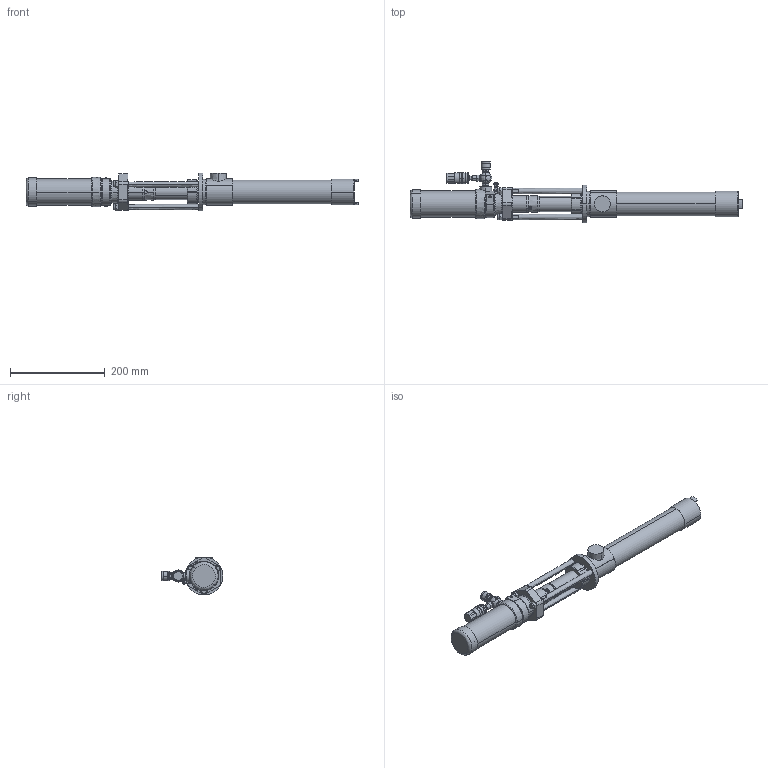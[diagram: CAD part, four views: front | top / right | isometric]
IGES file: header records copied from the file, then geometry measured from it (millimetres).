
Start section:  PTC IGES file: 226945-en-zac.igs
Global section: file name: 226945-en-zac.igs; native system: Creo Parametric by PTC Inc.; preprocessor: 2019030; author: qusrh3; organization: Unknown; date: 20200518.132808; units: inch
Bounding box: 701.52 x 130.59 x 80 mm (x, y, z)
Surface area: 237092.9 mm2 (no closed solid volume)
Topology: 0 solids, 0 shells, 473 faces, 2145 edges, 2145 vertices
Faces by surface type: revolution 290, bspline 183
